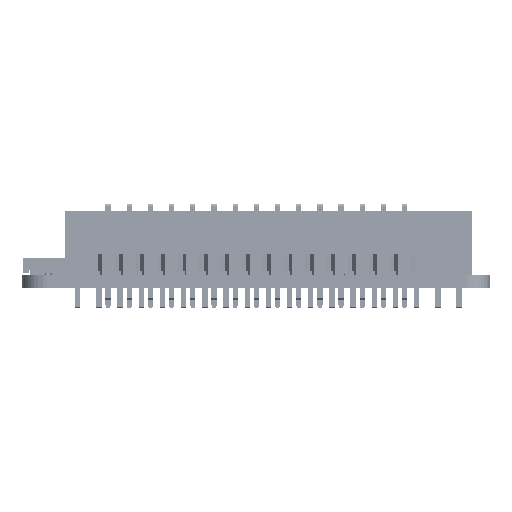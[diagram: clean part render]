
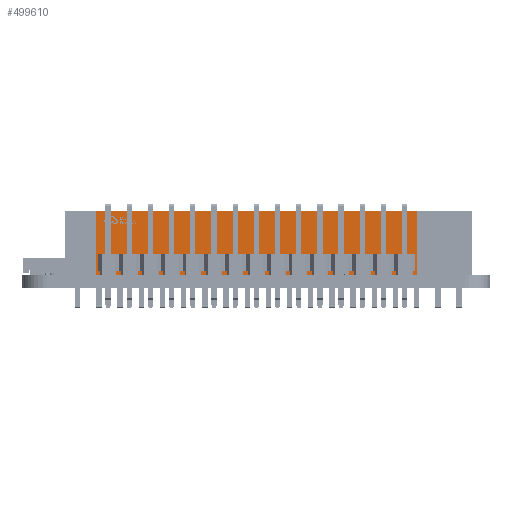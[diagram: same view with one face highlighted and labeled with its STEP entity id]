
A CAD part, left-side view. The second image highlights one B-rep face of the part: STEP entity #499610.
In plain terms, the highlighted planar face has unit normal (-1, 0, 0) as drawn and (0, -1, 0) by its records, which use the part's own axes.
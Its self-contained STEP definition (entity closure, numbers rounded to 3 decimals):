
#498896 = VERTEX_POINT('',#498897);
#498897 = CARTESIAN_POINT('',(-19.25,-1.25,7.7));
#498912 = VERTEX_POINT('',#498913);
#498913 = CARTESIAN_POINT('',(19.25,-1.25,7.7));
#498919 = EDGE_CURVE('',#498896,#498912,#498920,.T.);
#498920 = LINE('',#498921,#498922);
#498921 = CARTESIAN_POINT('',(-19.25,-1.25,7.7));
#498922 = VECTOR('',#498923,1.);
#498923 = DIRECTION('',(1.,0.,0.));
#499468 = EDGE_CURVE('',#499469,#498896,#499471,.T.);
#499469 = VERTEX_POINT('',#499470);
#499470 = CARTESIAN_POINT('',(-19.25,-1.25,-0.8));
#499471 = LINE('',#499472,#499473);
#499472 = CARTESIAN_POINT('',(-19.25,-1.25,-0.8));
#499473 = VECTOR('',#499474,1.);
#499474 = DIRECTION('',(0.,0.,1.));
#499523 = VERTEX_POINT('',#499524);
#499524 = CARTESIAN_POINT('',(19.25,-1.25,-0.8));
#499530 = EDGE_CURVE('',#499523,#498912,#499531,.T.);
#499531 = LINE('',#499532,#499533);
#499532 = CARTESIAN_POINT('',(19.25,-1.25,-0.8));
#499533 = VECTOR('',#499534,1.);
#499534 = DIRECTION('',(0.,0.,1.));
#499577 = EDGE_CURVE('',#499469,#499523,#499578,.T.);
#499578 = LINE('',#499579,#499580);
#499579 = CARTESIAN_POINT('',(-19.25,-1.25,-0.8));
#499580 = VECTOR('',#499581,1.);
#499581 = DIRECTION('',(1.,0.,0.));
#499610 = ADVANCED_FACE('',(#499611),#499617,.T.);
#499611 = FACE_BOUND('',#499612,.F.);
#499612 = EDGE_LOOP('',(#499613,#499614,#499615,#499616));
#499613 = ORIENTED_EDGE('',*,*,#499577,.F.);
#499614 = ORIENTED_EDGE('',*,*,#499468,.T.);
#499615 = ORIENTED_EDGE('',*,*,#498919,.T.);
#499616 = ORIENTED_EDGE('',*,*,#499530,.F.);
#499617 = PLANE('',#499618);
#499618 = AXIS2_PLACEMENT_3D('',#499619,#499620,#499621);
#499619 = CARTESIAN_POINT('',(-19.25,-1.25,-0.8));
#499620 = DIRECTION('',(0.,-1.,0.));
#499621 = DIRECTION('',(1.,0.,0.));
